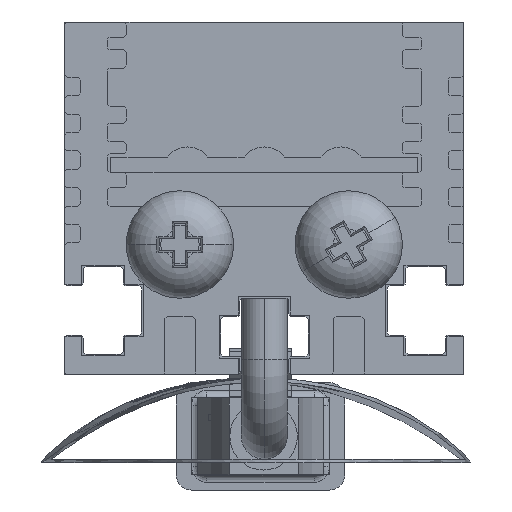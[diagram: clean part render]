
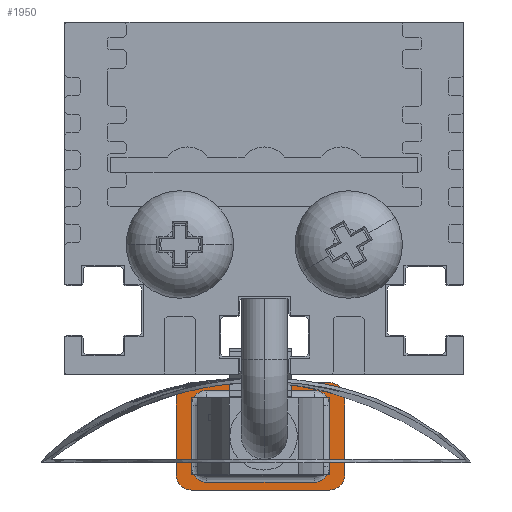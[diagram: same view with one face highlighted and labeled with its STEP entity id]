
A CAD part, left-side view. The second image highlights one B-rep face of the part: STEP entity #1950.
In plain terms, the highlighted planar face has unit normal (-1, 0, 0).
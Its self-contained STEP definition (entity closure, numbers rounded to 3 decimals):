
#1950=ADVANCED_FACE('NONE',(#4063,#4064),#4065,.F.);
#4063=FACE_OUTER_BOUND('',#6648,.T.);
#4064=FACE_BOUND('',#6649,.T.);
#4065=PLANE('',#6650);
#6648=EDGE_LOOP('',(#12273,#12274,#12275,#12276,#12277,#12278,#12279,#12280,#12281,#12282,#12283,#12284));
#6649=EDGE_LOOP('',(#12285,#12286,#12287,#12288,#12289,#12290,#12291,#12292));
#6650=AXIS2_PLACEMENT_3D('',#12293,#12294,#12295);
#12273=ORIENTED_EDGE('',*,*,#17543,.T.);
#12274=ORIENTED_EDGE('',*,*,#17345,.T.);
#12275=ORIENTED_EDGE('',*,*,#17551,.F.);
#12276=ORIENTED_EDGE('',*,*,#17340,.T.);
#12277=ORIENTED_EDGE('',*,*,#17564,.F.);
#12278=ORIENTED_EDGE('',*,*,#17387,.T.);
#12279=ORIENTED_EDGE('',*,*,#17562,.F.);
#12280=ORIENTED_EDGE('',*,*,#17396,.F.);
#12281=ORIENTED_EDGE('',*,*,#17546,.F.);
#12282=ORIENTED_EDGE('',*,*,#17337,.T.);
#12283=ORIENTED_EDGE('',*,*,#17554,.T.);
#12284=ORIENTED_EDGE('',*,*,#17332,.T.);
#12285=ORIENTED_EDGE('',*,*,#17361,.F.);
#12286=ORIENTED_EDGE('',*,*,#17351,.T.);
#12287=ORIENTED_EDGE('',*,*,#17364,.F.);
#12288=ORIENTED_EDGE('',*,*,#17372,.T.);
#12289=ORIENTED_EDGE('',*,*,#17380,.F.);
#12290=ORIENTED_EDGE('',*,*,#17383,.T.);
#12291=ORIENTED_EDGE('',*,*,#17377,.F.);
#12292=ORIENTED_EDGE('',*,*,#17369,.T.);
#12293=CARTESIAN_POINT('',(11.0,9.5,3.5));
#12294=DIRECTION('',(1.0,0.0,0.0));
#12295=DIRECTION('',(0.0,1.0,0.0));
#17332=EDGE_CURVE('NONE',#21389,#21387,#21390,.T.);
#17337=EDGE_CURVE('NONE',#21398,#21396,#21399,.T.);
#17340=EDGE_CURVE('NONE',#21402,#21403,#21404,.T.);
#17345=EDGE_CURVE('NONE',#21411,#21412,#21413,.T.);
#17351=EDGE_CURVE('NONE',#21423,#21421,#21424,.T.);
#17361=EDGE_CURVE('NONE',#21423,#21437,#21441,.T.);
#17364=EDGE_CURVE('NONE',#21444,#21421,#21446,.T.);
#17369=EDGE_CURVE('NONE',#21449,#21437,#21453,.T.);
#17372=EDGE_CURVE('NONE',#21444,#21456,#21458,.T.);
#17377=EDGE_CURVE('NONE',#21449,#21461,#21465,.T.);
#17380=EDGE_CURVE('NONE',#21468,#21456,#21470,.T.);
#17383=EDGE_CURVE('NONE',#21468,#21461,#21473,.T.);
#17387=EDGE_CURVE('NONE',#21479,#21476,#21480,.T.);
#17396=EDGE_CURVE('NONE',#21494,#21487,#21496,.T.);
#17543=EDGE_CURVE('NONE',#21387,#21411,#21733,.T.);
#17546=EDGE_CURVE('NONE',#21398,#21494,#21736,.T.);
#17551=EDGE_CURVE('NONE',#21402,#21412,#21741,.T.);
#17554=EDGE_CURVE('NONE',#21396,#21389,#21744,.T.);
#17562=EDGE_CURVE('NONE',#21487,#21476,#21752,.T.);
#17564=EDGE_CURVE('NONE',#21479,#21403,#21754,.T.);
#21387=VERTEX_POINT('NONE',#27537);
#21389=VERTEX_POINT('NONE',#27540);
#21390=CIRCLE('',#27541,1.0);
#21396=VERTEX_POINT('NONE',#27548);
#21398=VERTEX_POINT('NONE',#27551);
#21399=CIRCLE('',#27552,1.0);
#21402=VERTEX_POINT('NONE',#27556);
#21403=VERTEX_POINT('NONE',#27557);
#21404=CIRCLE('',#27558,1.0);
#21411=VERTEX_POINT('NONE',#27567);
#21412=VERTEX_POINT('NONE',#27568);
#21413=CIRCLE('',#27569,1.0);
#21421=VERTEX_POINT('NONE',#27579);
#21423=VERTEX_POINT('NONE',#27581);
#21424=LINE('',#27582,#27583);
#21437=VERTEX_POINT('NONE',#27599);
#21441=CIRCLE('',#27603,1.0);
#21444=VERTEX_POINT('NONE',#27606);
#21446=CIRCLE('',#27608,1.0);
#21449=VERTEX_POINT('NONE',#27611);
#21453=LINE('',#27616,#27617);
#21456=VERTEX_POINT('NONE',#27620);
#21458=LINE('',#27622,#27623);
#21461=VERTEX_POINT('NONE',#27627);
#21465=CIRCLE('',#27631,1.0);
#21468=VERTEX_POINT('NONE',#27634);
#21470=CIRCLE('',#27636,1.0);
#21473=LINE('',#27639,#27640);
#21476=VERTEX_POINT('NONE',#27644);
#21479=VERTEX_POINT('NONE',#27648);
#21480=LINE('',#27649,#27650);
#21487=VERTEX_POINT('NONE',#27660);
#21494=VERTEX_POINT('NONE',#27670);
#21496=LINE('',#27673,#27674);
#21733=LINE('',#28032,#28033);
#21736=LINE('',#28037,#28038);
#21741=LINE('',#28045,#28046);
#21744=LINE('',#28050,#28051);
#21752=LINE('',#28062,#28063);
#21754=LINE('',#28065,#28066);
#27537=CARTESIAN_POINT('',(11.0,8.5,-3.5));
#27540=CARTESIAN_POINT('',(11.0,9.5,-2.5));
#27541=AXIS2_PLACEMENT_3D('',#36053,#36054,#36055);
#27548=CARTESIAN_POINT('',(11.0,9.5,2.5));
#27551=CARTESIAN_POINT('',(11.0,8.5,3.5));
#27552=AXIS2_PLACEMENT_3D('',#36061,#36062,#36063);
#27556=CARTESIAN_POINT('',(11.0,-1.5,2.5));
#27557=CARTESIAN_POINT('',(11.0,-0.5,3.5));
#27558=AXIS2_PLACEMENT_3D('',#36065,#36066,#36067);
#27567=CARTESIAN_POINT('',(11.0,-0.5,-3.5));
#27568=CARTESIAN_POINT('',(11.0,-1.5,-2.5));
#27569=AXIS2_PLACEMENT_3D('',#36073,#36074,#36075);
#27579=CARTESIAN_POINT('',(11.0,0.5,3.0));
#27581=CARTESIAN_POINT('',(11.0,7.5,3.0));
#27582=CARTESIAN_POINT('',(11.0,9.5,3.0));
#27583=VECTOR('',#36084,1000.0);
#27599=CARTESIAN_POINT('',(11.0,8.5,2.0));
#27603=AXIS2_PLACEMENT_3D('',#36103,#36104,#36105);
#27606=CARTESIAN_POINT('',(11.0,-0.5,2.0));
#27608=AXIS2_PLACEMENT_3D('',#36109,#36110,#36111);
#27611=CARTESIAN_POINT('',(11.0,8.5,-2.0));
#27616=CARTESIAN_POINT('',(11.0,8.5,2.5));
#27617=VECTOR('',#36119,1000.0);
#27620=CARTESIAN_POINT('',(11.0,-0.5,-2.0));
#27622=CARTESIAN_POINT('',(11.0,-0.5,-2.5));
#27623=VECTOR('',#36123,1000.0);
#27627=CARTESIAN_POINT('',(11.0,7.5,-3.0));
#27631=AXIS2_PLACEMENT_3D('',#36131,#36132,#36133);
#27634=CARTESIAN_POINT('',(11.0,0.5,-3.0));
#27636=AXIS2_PLACEMENT_3D('',#36137,#36138,#36139);
#27639=CARTESIAN_POINT('',(11.0,8.0,-3.0));
#27640=VECTOR('',#36143,1000.0);
#27644=CARTESIAN_POINT('',(11.0,3.0,4.0));
#27648=CARTESIAN_POINT('',(11.0,3.0,3.5));
#27649=CARTESIAN_POINT('',(11.0,3.0,4.0));
#27650=VECTOR('',#36146,1000.0);
#27660=CARTESIAN_POINT('',(11.0,5.0,4.0));
#27670=CARTESIAN_POINT('',(11.0,5.0,3.5));
#27673=CARTESIAN_POINT('',(11.0,5.0,4.0));
#27674=VECTOR('',#36154,1000.0);
#28032=CARTESIAN_POINT('',(11.0,9.5,-3.5));
#28033=VECTOR('',#36276,1000.0);
#28037=CARTESIAN_POINT('',(11.0,9.5,3.5));
#28038=VECTOR('',#36278,1000.0);
#28045=CARTESIAN_POINT('',(11.0,-1.5,3.5));
#28046=VECTOR('',#36281,1000.0);
#28050=CARTESIAN_POINT('',(11.0,9.5,3.5));
#28051=VECTOR('',#36283,1000.0);
#28062=CARTESIAN_POINT('',(11.0,5.0,4.0));
#28063=VECTOR('',#36287,1000.0);
#28065=CARTESIAN_POINT('',(11.0,9.5,3.5));
#28066=VECTOR('',#36288,1000.0);
#36053=CARTESIAN_POINT('',(11.0,8.5,-2.5));
#36054=DIRECTION('',(-1.0,0.0,0.0));
#36055=DIRECTION('',(0.0,0.0,-1.0));
#36061=CARTESIAN_POINT('',(11.0,8.5,2.5));
#36062=DIRECTION('',(-1.0,0.0,0.0));
#36063=DIRECTION('',(0.0,0.0,-1.0));
#36065=CARTESIAN_POINT('',(11.0,-0.5,2.5));
#36066=DIRECTION('',(-1.0,0.0,0.0));
#36067=DIRECTION('',(0.0,0.0,-1.0));
#36073=CARTESIAN_POINT('',(11.0,-0.5,-2.5));
#36074=DIRECTION('',(-1.0,0.0,0.0));
#36075=DIRECTION('',(0.0,0.0,-1.0));
#36084=DIRECTION('',(0.0,-1.0,0.0));
#36103=CARTESIAN_POINT('',(11.0,7.5,2.0));
#36104=DIRECTION('',(-1.0,0.0,0.0));
#36105=DIRECTION('',(0.0,0.0,-1.0));
#36109=CARTESIAN_POINT('',(11.0,0.5,2.0));
#36110=DIRECTION('',(-1.0,0.0,0.0));
#36111=DIRECTION('',(0.0,0.0,-1.0));
#36119=DIRECTION('',(0.0,0.0,1.0));
#36123=DIRECTION('',(0.0,0.0,-1.0));
#36131=CARTESIAN_POINT('',(11.0,7.5,-2.0));
#36132=DIRECTION('',(-1.0,0.0,0.0));
#36133=DIRECTION('',(0.0,0.0,-1.0));
#36137=CARTESIAN_POINT('',(11.0,0.5,-2.0));
#36138=DIRECTION('',(-1.0,0.0,0.0));
#36139=DIRECTION('',(0.0,0.0,-1.0));
#36143=DIRECTION('',(0.0,1.0,0.0));
#36146=DIRECTION('',(0.0,0.0,1.0));
#36154=DIRECTION('',(0.0,0.0,1.0));
#36276=DIRECTION('',(0.0,-1.0,0.0));
#36278=DIRECTION('',(0.0,-1.0,0.0));
#36281=DIRECTION('',(0.0,0.0,-1.0));
#36283=DIRECTION('',(0.0,0.0,-1.0));
#36287=DIRECTION('',(0.0,-1.0,0.0));
#36288=DIRECTION('',(0.0,-1.0,0.0));
